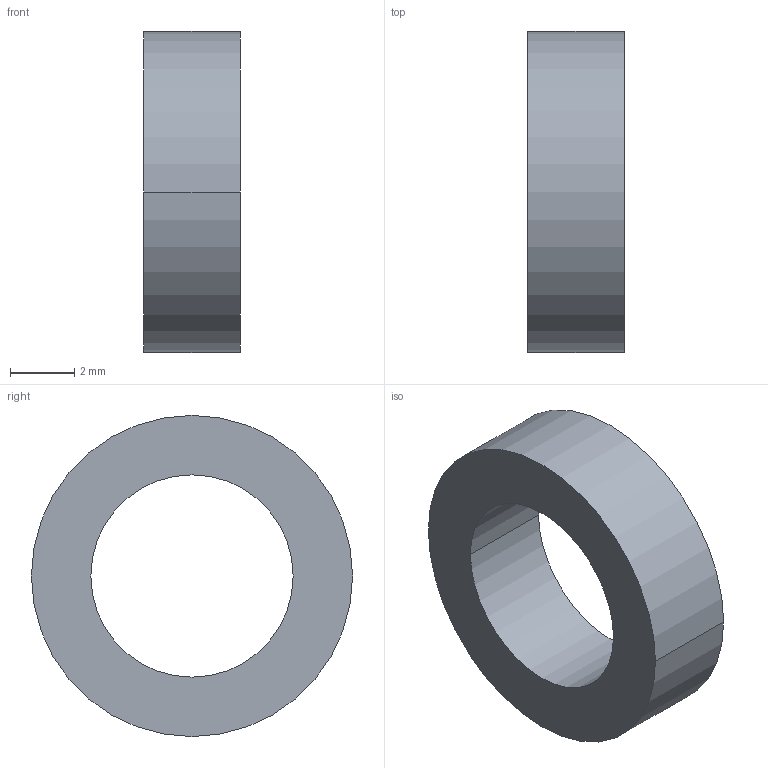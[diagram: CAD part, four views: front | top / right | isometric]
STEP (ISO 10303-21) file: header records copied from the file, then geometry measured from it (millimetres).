
FILE_DESCRIPTION((''),'2;1');
FILE_NAME('_X2_5B9E4F53_X0_2','2026-11-09T',('PC'),(''),'PRO/ENGINEER BY PARAMETRIC TECHNOLOGY CORPORATION, 2014320','PRO/ENGINEER BY PARAMETRIC TECHNOLOGY CORPORATION, 2014320','');
FILE_SCHEMA(('CONFIG_CONTROL_DESIGN'));
Length unit declared in the file: millimetre
Products named in the file (1): _X2_5B9E4F53_X0_2
Bounding box: 3 x 10 x 10 mm (x, y, z)
Volume: 142.1 mm3; surface area: 248.4 mm2
Topology: 1 solids, 1 shells, 6 faces, 12 edges, 8 vertices
Faces by surface type: cylinder 4, plane 2
Entity records: 206 total; most frequent: DIRECTION 32, CARTESIAN_POINT 26, ORIENTED_EDGE 24, AXIS2_PLACEMENT_3D 14, EDGE_CURVE 12, VERTEX_POINT 8, EDGE_LOOP 8, CIRCLE 8
